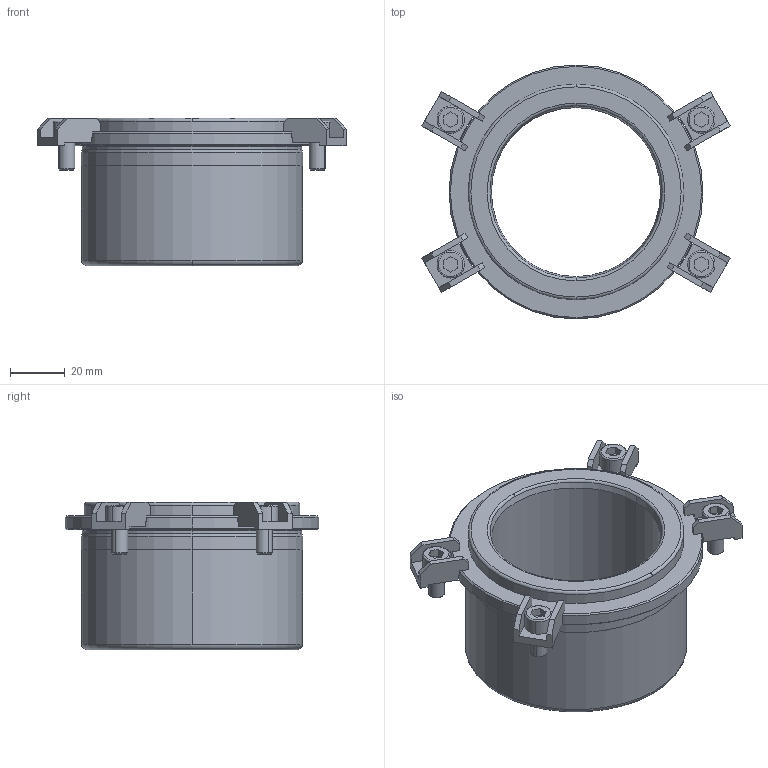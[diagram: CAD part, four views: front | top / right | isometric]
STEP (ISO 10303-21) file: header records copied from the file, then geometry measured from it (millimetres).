
FILE_DESCRIPTION((''),'2;1');
FILE_NAME('B42_050_044.stp','2008-11-04T14:22:36',(''),(''),'Mechanical Desktop 2009','Mechanical Desktop 2009',', , ');
FILE_SCHEMA(('CONFIG_CONTROL_DESIGN'));
Length unit declared in the file: millimetre
Products named in the file (2): Product; blmdl1
Assembly tree (1 placements, depth 2):
  Product
    blmdl1
Bounding box: 112.91 x 93 x 54 mm (x, y, z)
Volume: 127616.5 mm3; surface area: 37866.4 mm2
Topology: 9 solids, 9 shells, 233 faces, 598 edges, 394 vertices
Faces by surface type: plane 137, cylinder 48, cone 20, torus 16, bspline 12
Entity records: 7707 total; most frequent: CARTESIAN_POINT 1755, DIRECTION 1258, ORIENTED_EDGE 1196, EDGE_CURVE 598, AXIS2_PLACEMENT_3D 437, VERTEX_POINT 394, VECTOR 384, LINE 384
